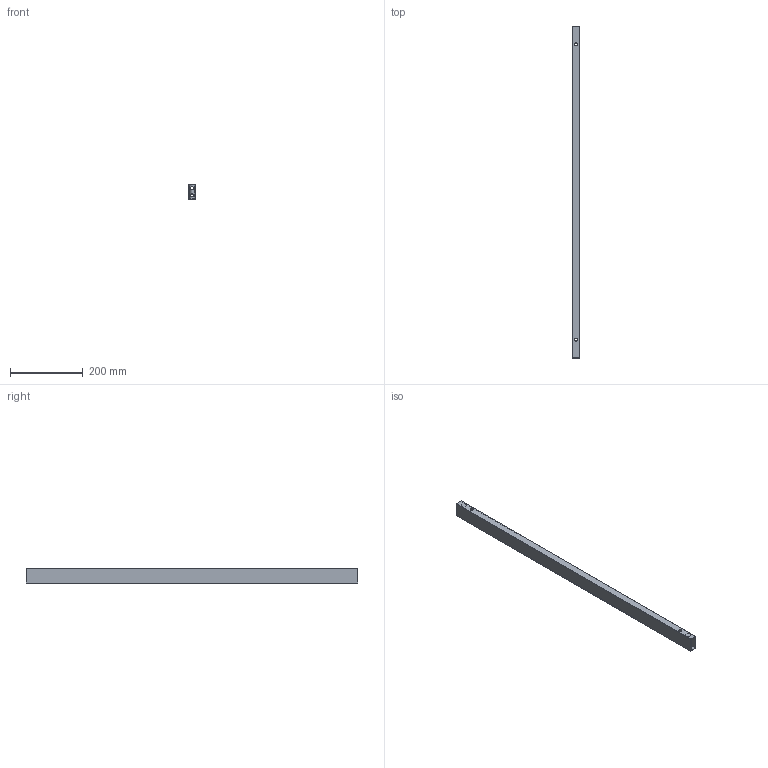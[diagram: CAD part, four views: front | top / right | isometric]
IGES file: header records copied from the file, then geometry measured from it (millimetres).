
Start section: Data from Parasolid IGES Translator 20.0.26, Copyright(c) 2006 Siemens P LM Software. All Rights Reserved.
Global section: file name: 46011.igs; native system: By Siemens PLM Incorporated; preprocessor: XPlus GENERIC/IGES 20.0.26; author: Noname; organization: Noname; date: 20210125.173216; units: millimetre
Bounding box: 20 x 910 x 41.5 mm (x, y, z)
Surface area: 211293.7 mm2 (no closed solid volume)
Topology: 0 solids, 0 shells, 24 faces, 120 edges, 100 vertices
Faces by surface type: revolution 12, extrusion 12
